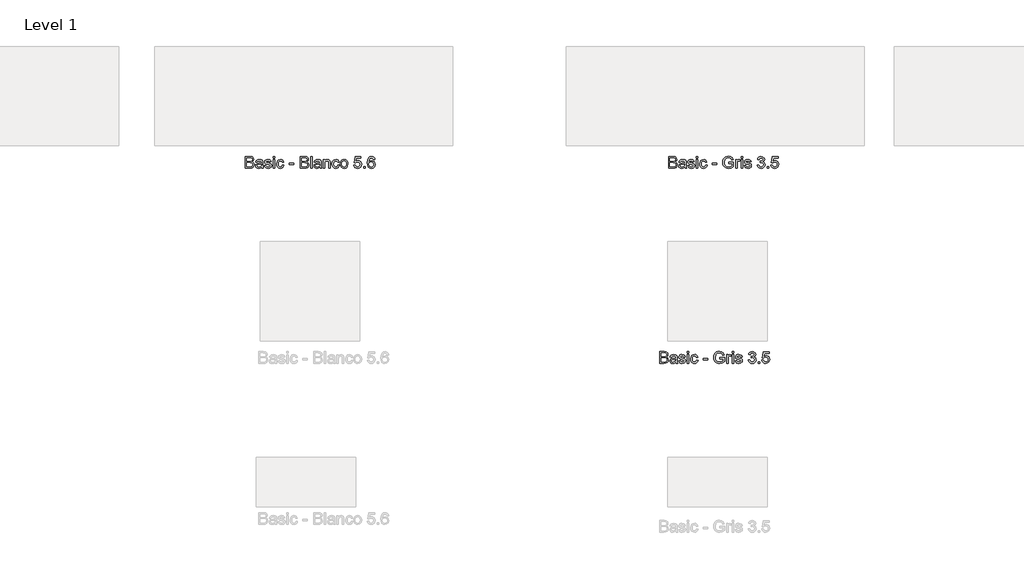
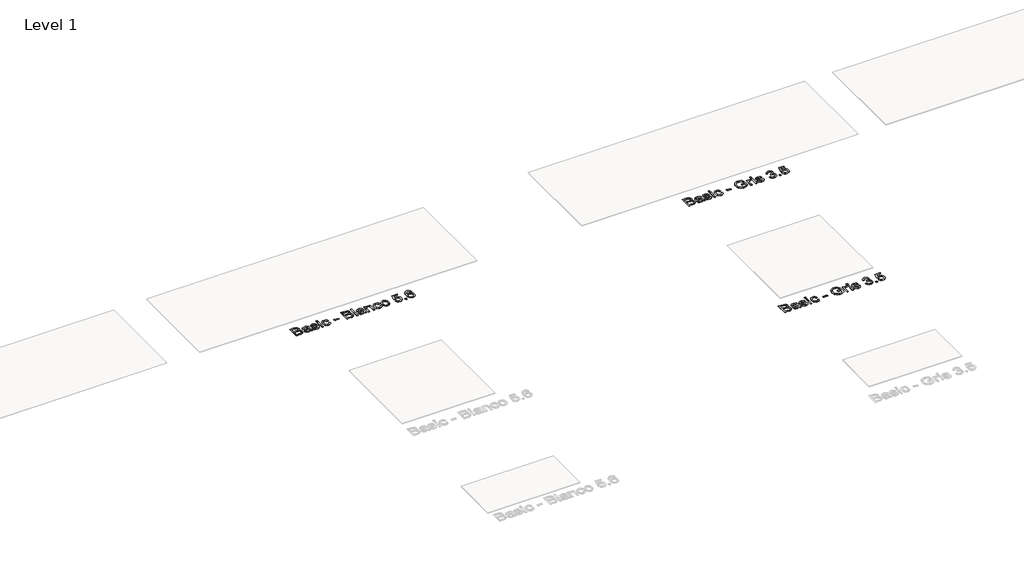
# One storey, part 58 of 80: 3 proxies.
"""IFC4 building model written with IfcOpenShell, lengths in millimetres."""

from ifc_helpers import new_model, si_unit, origin, origin_with_axes, place, context, project, spatial, polyline, outline, extrude, element, save

model = new_model("IFC4")

# Units and contexts
model_context = context("Model", 3, world=origin())
ifc_project = project(units=[si_unit("LENGTHUNIT", "METRE", prefix="MILLI")], contexts=[model_context])

# Site, building, storey
site = spatial("IfcSite", under=ifc_project)
building = spatial("IfcBuilding", under=site)
storey = spatial("IfcBuildingStorey", under=building, Name="Level 1", Elevation=0.0)

# Proxies
placement = place(None, origin())
element("IfcBuildingElementProxy", 1, Name="24\" Arial", ObjectType="24\" Arial", at=placement, inside=storey, context=model_context, shape_type="SweptSolid", body=[
    extrude(outline(polyline([(-23232.3794401, 19224.0250725), (-23232.3794401, 19342.1789187), (-23187.2929016, 19342.1789187), (-23165.2111708, 19338.7029571), (-23152.1727093, 19328.0154571), (-23147.4563631, 19312.9000725), (-23151.4227093, 19299.0971879), (-23163.4082862, 19288.6404571), (-23148.8554016, 19277.6212264), (-23143.7640554, 19259.2462264), (-23147.240017, 19243.3664187), (-23155.8505939, 19232.0587264), (-23168.7015554, 19226.0587264), (-23187.6390554, 19224.0250725), (-23232.3794401, 19224.0250725)]), holes=[polyline([(-23217.6102093, 19238.7943033), (-23187.3217477, 19238.7943033), (-23176.3602093, 19239.3712264), (-23167.0861708, 19242.5875725), (-23160.9419401, 19249.1500725), (-23158.5332862, 19259.1019956), (-23161.3602093, 19270.5827648), (-23170.5188631, 19277.4337264), (-23188.7640554, 19279.4096879), (-23217.6102093, 19279.4096879), (-23217.6102093, 19238.7943033)]), polyline([(-23217.6102093, 19294.1789187), (-23190.6390554, 19294.1789187), (-23174.8890554, 19295.4481494), (-23165.4130939, 19300.9144956), (-23162.2255939, 19310.5346879), (-23165.1967477, 19320.1693033), (-23173.7063631, 19325.8664187), (-23192.6871324, 19327.4096879), (-23217.6102093, 19327.4096879), (-23217.6102093, 19294.1789187)])]), origin_with_axes(), (0.0, 0.0, 1.0), 2.0),
    extrude(outline(polyline([(-23069.9179016, 19235.1019956), (-23084.240017, 19225.0923802), (-23100.0621324, 19222.1789187), (-23112.4046804, 19223.9313225), (-23121.5092477, 19229.188534), (-23127.1234304, 19237.1717071), (-23128.9948247, 19247.1019956), (-23126.1679016, 19258.7846879), (-23118.740017, 19267.2654571), (-23108.3986708, 19272.111611), (-23095.6198247, 19274.3327648), (-23070.0044401, 19279.4096879), (-23069.9179016, 19282.6981494), (-23073.9852093, 19293.6019956), (-23090.3121324, 19297.8712264), (-23105.2544401, 19295.0298802), (-23112.3794401, 19284.9481494), (-23127.1486708, 19286.7943033), (-23120.7592477, 19301.2173802), (-23107.8938631, 19309.6693033), (-23088.4082862, 19312.6404571), (-23070.5092477, 19310.0154571), (-23060.3986708, 19303.424111), (-23055.8698247, 19293.4000725), (-23055.1486708, 19280.4769956), (-23055.1486708, 19262.1019956), (-23054.3986708, 19236.4433417), (-23051.4563631, 19224.0250725), (-23066.2255939, 19224.0250725), (-23069.9179016, 19235.1019956)]), holes=[polyline([(-23069.9179016, 19264.6404571), (-23093.7448247, 19260.111611), (-23106.4515554, 19257.7173802), (-23112.2063631, 19253.8231494), (-23114.2255939, 19248.1404571), (-23109.8265554, 19240.1500725), (-23096.9179016, 19236.9481494), (-23081.9755939, 19240.4818033), (-23072.3409785, 19249.0346879), (-23070.0044401, 19260.4577648), (-23069.9179016, 19264.6404571)])]), origin_with_axes(), (0.0, 0.0, 1.0), 2.0),
    extrude(outline(polyline([(-23040.3794401, 19249.8712264), (-23025.6102093, 19251.7173802), (-23018.7736708, 19240.7558417), (-23003.1102093, 19236.9481494), (-22988.052517, 19240.438534), (-22983.1486708, 19248.6308417), (-22988.0813631, 19255.2654571), (-23003.2832862, 19259.4769956), (-23025.5236708, 19266.7029571), (-23035.2304016, 19275.1404571), (-23038.5332862, 19287.0539187), (-23035.8794401, 19298.0587264), (-23028.6390554, 19306.4673802), (-23019.2496324, 19310.8375725), (-23006.5429016, 19312.6404571), (-22988.5717477, 19309.7414187), (-22977.1486708, 19301.8952648), (-22972.0717477, 19288.6404571), (-22986.8409785, 19286.7943033), (-22992.3938631, 19294.9433417), (-23005.3890554, 19297.8712264), (-23019.5236708, 19295.0731494), (-23023.7640554, 19288.5539187), (-23022.0044401, 19284.2558417), (-23016.4948247, 19280.9962264), (-23003.7736708, 19277.8519956), (-22982.0957862, 19270.9000725), (-22972.0284785, 19263.0250725), (-22968.3794401, 19250.188534), (-22972.6630939, 19236.0539187), (-22985.0236708, 19225.799111), (-23003.3121324, 19222.1789187), (-23018.2039593, 19223.924111), (-23029.0717477, 19229.1596879), (-23036.3265554, 19237.8279571), (-23040.3794401, 19249.8712264)])), origin_with_axes(), (0.0, 0.0, 1.0), 2.0),
    extrude(outline(polyline([(-22951.7640554, 19224.0250725), (-22951.7640554, 19310.7943033), (-22936.9948247, 19310.7943033), (-22936.9948247, 19224.0250725), (-22951.7640554, 19224.0250725)])), origin_with_axes(), (0.0, 0.0, 1.0), 2.0),
    extrude(outline(polyline([(-22951.7640554, 19327.4096879), (-22951.7640554, 19342.1789187), (-22936.9948247, 19342.1789187), (-22936.9948247, 19327.4096879), (-22951.7640554, 19327.4096879)])), origin_with_axes(), (0.0, 0.0, 1.0), 2.0),
    extrude(outline(polyline([(-22859.4563631, 19255.4096879), (-22844.6871324, 19253.563534), (-22848.8049208, 19240.4277167), (-22856.5429016, 19230.501034), (-22867.1727093, 19224.2594475), (-22879.9659785, 19222.1789187), (-22895.6763151, 19225.0815629), (-22907.9611708, 19233.7894956), (-22915.8902574, 19247.9205052), (-22918.5332862, 19267.0923802), (-22914.0188631, 19291.626034), (-22908.3217477, 19300.8243514), (-22900.2592477, 19307.3904571), (-22880.1679016, 19312.6404571), (-22867.6883343, 19310.8375725), (-22857.7111708, 19305.4289187), (-22850.5537189, 19296.7029571), (-22846.5332862, 19284.9481494), (-22861.302517, 19283.1019956), (-22868.1534785, 19294.1644956), (-22880.052517, 19297.8712264), (-22889.5969881, 19296.0467071), (-22897.1727093, 19290.5731494), (-22902.1162189, 19281.1548802), (-22903.7640554, 19267.4962264), (-22902.1522766, 19253.6536783), (-22897.3169401, 19244.2029571), (-22889.8782381, 19238.7618514), (-22880.4563631, 19236.9481494), (-22866.5380939, 19241.4769956), (-22859.4563631, 19255.4096879)])), origin_with_axes(), (0.0, 0.0, 1.0), 2.0),
    extrude(outline(polyline([(-22792.9948247, 19259.1019956), (-22792.9948247, 19273.8712264), (-22746.8409785, 19273.8712264), (-22746.8409785, 19259.1019956), (-22792.9948247, 19259.1019956)])), origin_with_axes(), (0.0, 0.0, 1.0), 2.0),
    extrude(outline(polyline([(-22682.2255939, 19224.0250725), (-22682.2255939, 19342.1789187), (-22637.1390554, 19342.1789187), (-22615.0573247, 19338.7029571), (-22602.0188631, 19328.0154571), (-22597.302517, 19312.9000725), (-22601.2688631, 19299.0971879), (-22613.2544401, 19288.6404571), (-22598.7015554, 19277.6212264), (-22593.6102093, 19259.2462264), (-22597.0861708, 19243.3664187), (-22605.6967477, 19232.0587264), (-22618.5477093, 19226.0587264), (-22637.4852093, 19224.0250725), (-22682.2255939, 19224.0250725)]), holes=[polyline([(-22667.4563631, 19294.1789187), (-22640.4852093, 19294.1789187), (-22624.7352093, 19295.4481494), (-22615.2592477, 19300.9144956), (-22612.0717477, 19310.5346879), (-22615.0429016, 19320.1693033), (-22623.552517, 19325.8664187), (-22642.5332862, 19327.4096879), (-22667.4563631, 19327.4096879), (-22667.4563631, 19294.1789187)]), polyline([(-22667.4563631, 19238.7943033), (-22637.1679016, 19238.7943033), (-22626.2063631, 19239.3712264), (-22616.9323247, 19242.5875725), (-22610.7880939, 19249.1500725), (-22608.3794401, 19259.1019956), (-22611.2063631, 19270.5827648), (-22620.365017, 19277.4337264), (-22638.6102093, 19279.4096879), (-22667.4563631, 19279.4096879), (-22667.4563631, 19238.7943033)])]), origin_with_axes(), (0.0, 0.0, 1.0), 2.0),
    extrude(outline(polyline([(-22575.1486708, 19224.0250725), (-22575.1486708, 19342.1789187), (-22560.3794401, 19342.1789187), (-22560.3794401, 19224.0250725), (-22575.1486708, 19224.0250725)])), origin_with_axes(), (0.0, 0.0, 1.0), 2.0),
    extrude(outline(polyline([(-22482.8409785, 19235.1019956), (-22497.1630939, 19225.0923802), (-22512.9852093, 19222.1789187), (-22525.3277574, 19223.9313225), (-22534.4323247, 19229.188534), (-22540.0465074, 19237.1717071), (-22541.9179016, 19247.1019956), (-22539.0909785, 19258.7846879), (-22531.6630939, 19267.2654571), (-22521.3217477, 19272.111611), (-22508.5429016, 19274.3327648), (-22482.927517, 19279.4096879), (-22482.8409785, 19282.6981494), (-22486.9082862, 19293.6019956), (-22503.2352093, 19297.8712264), (-22518.177517, 19295.0298802), (-22525.302517, 19284.9481494), (-22540.0717477, 19286.7943033), (-22533.6823247, 19301.2173802), (-22520.8169401, 19309.6693033), (-22501.3313631, 19312.6404571), (-22483.4323247, 19310.0154571), (-22473.3217477, 19303.424111), (-22468.7929016, 19293.4000725), (-22468.0717477, 19280.4769956), (-22468.0717477, 19262.1019956), (-22467.3217477, 19236.4433417), (-22464.3794401, 19224.0250725), (-22479.1486708, 19224.0250725), (-22482.8409785, 19235.1019956)]), holes=[polyline([(-22482.8409785, 19264.6404571), (-22506.6679016, 19260.111611), (-22519.3746324, 19257.7173802), (-22525.1294401, 19253.8231494), (-22527.1486708, 19248.1404571), (-22522.7496324, 19240.1500725), (-22509.8409785, 19236.9481494), (-22494.8986708, 19240.4818033), (-22485.2640554, 19249.0346879), (-22482.927517, 19260.4577648), (-22482.8409785, 19264.6404571)])]), origin_with_axes(), (0.0, 0.0, 1.0), 2.0),
    extrude(outline(polyline([(-22447.7640554, 19224.0250725), (-22447.7640554, 19310.7943033), (-22432.9948247, 19310.7943033), (-22432.9948247, 19298.6789187), (-22421.7015554, 19309.1500725), (-22406.2832862, 19312.6404571), (-22392.3361708, 19309.8279571), (-22382.8169401, 19302.4433417), (-22378.3890554, 19291.5827648), (-22377.6102093, 19277.3039187), (-22377.6102093, 19224.0250725), (-22392.3794401, 19224.0250725), (-22392.3794401, 19275.313534), (-22394.0813631, 19288.3808417), (-22400.0957862, 19295.2894956), (-22410.2352093, 19297.8712264), (-22426.2592477, 19292.0731494), (-22431.3109304, 19283.6717071), (-22432.9948247, 19270.063534), (-22432.9948247, 19224.0250725), (-22447.7640554, 19224.0250725)])), origin_with_axes(), (0.0, 0.0, 1.0), 2.0),
    extrude(outline(polyline([(-22301.9179016, 19255.4096879), (-22287.1486708, 19253.563534), (-22291.2664593, 19240.4277167), (-22299.0044401, 19230.501034), (-22309.6342477, 19224.2594475), (-22322.427517, 19222.1789187), (-22338.1378535, 19225.0815629), (-22350.4227093, 19233.7894956), (-22358.3517958, 19247.9205052), (-22360.9948247, 19267.0923802), (-22356.4804016, 19291.626034), (-22350.7832862, 19300.8243514), (-22342.7207862, 19307.3904571), (-22322.6294401, 19312.6404571), (-22310.1498727, 19310.8375725), (-22300.1727093, 19305.4289187), (-22293.0152574, 19296.7029571), (-22288.9948247, 19284.9481494), (-22303.7640554, 19283.1019956), (-22310.615017, 19294.1644956), (-22322.5140554, 19297.8712264), (-22332.0585266, 19296.0467071), (-22339.6342477, 19290.5731494), (-22344.5777574, 19281.1548802), (-22346.2255939, 19267.4962264), (-22344.6138151, 19253.6536783), (-22339.7784785, 19244.2029571), (-22332.3397766, 19238.7618514), (-22322.9179016, 19236.9481494), (-22308.9996324, 19241.4769956), (-22301.9179016, 19255.4096879)])), origin_with_axes(), (0.0, 0.0, 1.0), 2.0),
    extrude(outline(polyline([(-22277.9179016, 19267.4096879), (-22274.7231901, 19288.330361), (-22265.1390554, 19303.0346879), (-22253.2977093, 19310.2390148), (-22239.1198247, 19312.6404571), (-22223.6041997, 19309.7161783), (-22211.2111708, 19300.9433417), (-22203.0873727, 19287.0142552), (-22200.3794401, 19268.6212264), (-22205.1679016, 19242.3423802), (-22219.115017, 19227.4721879), (-22239.1198247, 19222.1789187), (-22254.8229497, 19225.0923802), (-22267.2015554, 19233.8327648), (-22275.2388151, 19248.0539187), (-22277.9179016, 19267.4096879)]), holes=[polyline([(-22263.1486708, 19267.438534), (-22261.4395362, 19254.0719475), (-22256.3121324, 19244.549111), (-22248.5957862, 19238.8483898), (-22239.1198247, 19236.9481494), (-22229.6871324, 19238.8592071), (-22221.9852093, 19244.5923802), (-22216.8578054, 19254.2414187), (-22215.1486708, 19267.9000725), (-22216.8686227, 19280.877236), (-22222.0284785, 19290.2702648), (-22229.7412189, 19295.970986), (-22239.1198247, 19297.8712264), (-22248.5957862, 19295.9781975), (-22256.3121324, 19290.299111), (-22261.4395362, 19280.797909), (-22263.1486708, 19267.438534)])]), origin_with_axes(), (0.0, 0.0, 1.0), 2.0),
    extrude(outline(polyline([(-22141.302517, 19255.4096879), (-22126.5332862, 19257.2558417), (-22119.0909785, 19242.0394956), (-22103.6582862, 19236.9481494), (-22093.0717477, 19238.7185821), (-22085.1390554, 19244.0298802), (-22080.1847285, 19252.2690629), (-22078.5332862, 19262.8231494), (-22080.0801612, 19272.7606494), (-22084.7207862, 19280.361611), (-22092.4912189, 19285.1861302), (-22103.427517, 19286.7943033), (-22116.3938631, 19284.2269956), (-22124.6871324, 19277.563534), (-22139.4563631, 19279.4096879), (-22126.5332862, 19340.3327648), (-22069.302517, 19340.3327648), (-22069.302517, 19325.563534), (-22114.5909785, 19325.563534), (-22120.9082862, 19293.0250725), (-22110.3578054, 19299.4289187), (-22099.302517, 19301.563534), (-22085.5032381, 19298.9168994), (-22074.0477093, 19290.9769956), (-22066.3349689, 19278.876034), (-22063.7640554, 19263.7462264), (-22066.0789593, 19248.9769956), (-22073.0236708, 19236.3423802), (-22086.3217477, 19225.719784), (-22103.7159785, 19222.1789187), (-22118.2219881, 19224.454159), (-22129.7784785, 19231.2798802), (-22137.7003535, 19241.8628129), (-22141.302517, 19255.4096879)])), origin_with_axes(), (0.0, 0.0, 1.0), 2.0),
    extrude(outline(polyline([(-22043.4563631, 19224.0250725), (-22043.4563631, 19238.7943033), (-22028.6871324, 19238.7943033), (-22028.6871324, 19224.0250725), (-22043.4563631, 19224.0250725)])), origin_with_axes(), (0.0, 0.0, 1.0), 2.0),
    extrude(outline(polyline([(-21928.9948247, 19310.7943033), (-21943.7640554, 19308.9481494), (-21949.3602093, 19321.2654571), (-21956.0597285, 19325.8736302), (-21964.1582862, 19327.4096879), (-21977.4852093, 19323.8327648), (-21987.5669401, 19310.4048802), (-21991.7640554, 19284.0827648), (-21978.740017, 19295.8664187), (-21962.6005939, 19299.7173802), (-21948.9563631, 19297.0851687), (-21937.5044401, 19289.188534), (-21929.7376131, 19277.1236302), (-21927.1486708, 19261.986611), (-21932.0236708, 19241.6068033), (-21945.4371324, 19227.1837264), (-21964.7929016, 19222.1789187), (-21981.5489112, 19225.4962264), (-21994.8938631, 19235.4481494), (-22003.6234304, 19253.0154571), (-22006.5332862, 19279.1789187), (-22003.302517, 19308.594784), (-21993.6102093, 19328.7077648), (-21980.3770362, 19338.8111302), (-21963.2352093, 19342.1789187), (-21950.2760747, 19340.094784), (-21939.8986708, 19333.8423802), (-21932.6294401, 19323.9120917), (-21928.9948247, 19310.7943033)]), holes=[polyline([(-21991.7640554, 19262.2173802), (-21988.3457862, 19249.424111), (-21979.2592477, 19240.1356494), (-21965.9467477, 19236.9481494), (-21956.2003535, 19238.5995917), (-21948.5380939, 19243.5539187), (-21943.5729497, 19251.3423802), (-21941.9179016, 19261.4962264), (-21943.5513151, 19271.2426206), (-21948.4515554, 19278.674111), (-21956.2436227, 19283.3796398), (-21966.552517, 19284.9481494), (-21976.2844881, 19283.3796398), (-21984.4227093, 19278.674111), (-21989.9287189, 19271.422909), (-21991.7640554, 19262.2173802)])]), origin_with_axes(), (0.0, 0.0, 1.0), 2.0),
])
element("IfcBuildingElementProxy", 2, Name="24\" Arial", ObjectType="24\" Arial", at=placement, inside=storey, context=model_context, shape_type="SweptSolid", body=[
    extrude(outline(polyline([(-18975.5848523, 19224.0250725), (-18975.5848523, 19342.1789187), (-18930.4983138, 19342.1789187), (-18908.416583, 19338.7029571), (-18895.3781215, 19328.0154571), (-18890.6617753, 19312.9000725), (-18894.6281215, 19299.0971879), (-18906.6136984, 19288.6404571), (-18892.0608138, 19277.6212264), (-18886.9694676, 19259.2462264), (-18890.4454292, 19243.3664187), (-18899.0560061, 19232.0587264), (-18911.9069676, 19226.0587264), (-18930.8444676, 19224.0250725), (-18975.5848523, 19224.0250725)]), holes=[polyline([(-18960.8156215, 19238.7943033), (-18930.52716, 19238.7943033), (-18919.5656215, 19239.3712264), (-18910.291583, 19242.5875725), (-18904.1473523, 19249.1500725), (-18901.7386984, 19259.1019956), (-18904.5656215, 19270.5827648), (-18913.7242753, 19277.4337264), (-18931.9694676, 19279.4096879), (-18960.8156215, 19279.4096879), (-18960.8156215, 19238.7943033)]), polyline([(-18960.8156215, 19294.1789187), (-18933.8444676, 19294.1789187), (-18918.0944676, 19295.4481494), (-18908.6185061, 19300.9144956), (-18905.4310061, 19310.5346879), (-18908.40216, 19320.1693033), (-18916.9117753, 19325.8664187), (-18935.8925446, 19327.4096879), (-18960.8156215, 19327.4096879), (-18960.8156215, 19294.1789187)])]), origin_with_axes(), (0.0, 0.0, 1.0), 2.0),
    extrude(outline(polyline([(-18813.1233138, 19235.1019956), (-18827.4454292, 19225.0923802), (-18843.2675446, 19222.1789187), (-18855.6100926, 19223.9313225), (-18864.71466, 19229.188534), (-18870.3288426, 19237.1717071), (-18872.2002369, 19247.1019956), (-18869.3733138, 19258.7846879), (-18861.9454292, 19267.2654571), (-18851.604083, 19272.111611), (-18838.8252369, 19274.3327648), (-18813.2098523, 19279.4096879), (-18813.1233138, 19282.6981494), (-18817.1906215, 19293.6019956), (-18833.5175446, 19297.8712264), (-18848.4598523, 19295.0298802), (-18855.5848523, 19284.9481494), (-18870.354083, 19286.7943033), (-18863.96466, 19301.2173802), (-18851.0992753, 19309.6693033), (-18831.6136984, 19312.6404571), (-18813.71466, 19310.0154571), (-18803.604083, 19303.424111), (-18799.0752369, 19293.4000725), (-18798.354083, 19280.4769956), (-18798.354083, 19262.1019956), (-18797.604083, 19236.4433417), (-18794.6617753, 19224.0250725), (-18809.4310061, 19224.0250725), (-18813.1233138, 19235.1019956)]), holes=[polyline([(-18813.1233138, 19264.6404571), (-18836.9502369, 19260.111611), (-18849.6569676, 19257.7173802), (-18855.4117753, 19253.8231494), (-18857.4310061, 19248.1404571), (-18853.0319676, 19240.1500725), (-18840.1233138, 19236.9481494), (-18825.1810061, 19240.4818033), (-18815.5463907, 19249.0346879), (-18813.2098523, 19260.4577648), (-18813.1233138, 19264.6404571)])]), origin_with_axes(), (0.0, 0.0, 1.0), 2.0),
    extrude(outline(polyline([(-18783.5848523, 19249.8712264), (-18768.8156215, 19251.7173802), (-18761.979083, 19240.7558417), (-18746.3156215, 19236.9481494), (-18731.2579292, 19240.438534), (-18726.354083, 19248.6308417), (-18731.2867753, 19255.2654571), (-18746.4886984, 19259.4769956), (-18768.729083, 19266.7029571), (-18778.4358138, 19275.1404571), (-18781.7386984, 19287.0539187), (-18779.0848523, 19298.0587264), (-18771.8444676, 19306.4673802), (-18762.4550446, 19310.8375725), (-18749.7483138, 19312.6404571), (-18731.77716, 19309.7414187), (-18720.354083, 19301.8952648), (-18715.27716, 19288.6404571), (-18730.0463907, 19286.7943033), (-18735.5992753, 19294.9433417), (-18748.5944676, 19297.8712264), (-18762.729083, 19295.0731494), (-18766.9694676, 19288.5539187), (-18765.2098523, 19284.2558417), (-18759.7002369, 19280.9962264), (-18746.979083, 19277.8519956), (-18725.3011984, 19270.9000725), (-18715.2338907, 19263.0250725), (-18711.5848523, 19250.188534), (-18715.8685061, 19236.0539187), (-18728.229083, 19225.799111), (-18746.5175446, 19222.1789187), (-18761.4093715, 19223.924111), (-18772.27716, 19229.1596879), (-18779.5319676, 19237.8279571), (-18783.5848523, 19249.8712264)])), origin_with_axes(), (0.0, 0.0, 1.0), 2.0),
    extrude(outline(polyline([(-18694.9694676, 19224.0250725), (-18694.9694676, 19310.7943033), (-18680.2002369, 19310.7943033), (-18680.2002369, 19224.0250725), (-18694.9694676, 19224.0250725)])), origin_with_axes(), (0.0, 0.0, 1.0), 2.0),
    extrude(outline(polyline([(-18694.9694676, 19327.4096879), (-18694.9694676, 19342.1789187), (-18680.2002369, 19342.1789187), (-18680.2002369, 19327.4096879), (-18694.9694676, 19327.4096879)])), origin_with_axes(), (0.0, 0.0, 1.0), 2.0),
    extrude(outline(polyline([(-18602.6617753, 19255.4096879), (-18587.8925446, 19253.563534), (-18592.010333, 19240.4277167), (-18599.7483138, 19230.501034), (-18610.3781215, 19224.2594475), (-18623.1713907, 19222.1789187), (-18638.8817273, 19225.0815629), (-18651.166583, 19233.7894956), (-18659.0956696, 19247.9205052), (-18661.7386984, 19267.0923802), (-18657.2242753, 19291.626034), (-18651.52716, 19300.8243514), (-18643.46466, 19307.3904571), (-18623.3733138, 19312.6404571), (-18610.8937465, 19310.8375725), (-18600.916583, 19305.4289187), (-18593.7591311, 19296.7029571), (-18589.7386984, 19284.9481494), (-18604.5079292, 19283.1019956), (-18611.3588907, 19294.1644956), (-18623.2579292, 19297.8712264), (-18632.8024003, 19296.0467071), (-18640.3781215, 19290.5731494), (-18645.3216311, 19281.1548802), (-18646.9694676, 19267.4962264), (-18645.3576888, 19253.6536783), (-18640.5223523, 19244.2029571), (-18633.0836503, 19238.7618514), (-18623.6617753, 19236.9481494), (-18609.7435061, 19241.4769956), (-18602.6617753, 19255.4096879)])), origin_with_axes(), (0.0, 0.0, 1.0), 2.0),
    extrude(outline(polyline([(-18536.2002369, 19259.1019956), (-18536.2002369, 19273.8712264), (-18490.0463907, 19273.8712264), (-18490.0463907, 19259.1019956), (-18536.2002369, 19259.1019956)])), origin_with_axes(), (0.0, 0.0, 1.0), 2.0),
    extrude(outline(polyline([(-18370.0463907, 19270.1789187), (-18370.0463907, 19284.9481494), (-18322.0463907, 19284.9481494), (-18322.0463907, 19240.7846879), (-18345.7435061, 19226.8519956), (-18370.7963907, 19222.1789187), (-18387.3649003, 19224.0358898), (-18402.33966, 19229.6068033), (-18414.7795638, 19238.6969475), (-18423.7435061, 19251.111611), (-18429.1629773, 19266.0034379), (-18430.9694676, 19282.5250725), (-18429.1701888, 19299.1656975), (-18423.7723523, 19314.6452648), (-18414.9995157, 19327.6296398), (-18403.0752369, 19336.7846879), (-18388.5511984, 19342.2149764), (-18371.979083, 19344.0250725), (-18348.8733138, 19339.8279571), (-18332.6761984, 19328.1452648), (-18323.7483138, 19308.6019956), (-18337.3636984, 19304.7654571), (-18344.0992753, 19318.424111), (-18355.6088907, 19326.299111), (-18372.2098523, 19329.2558417), (-18391.1185061, 19326.0683417), (-18403.9838907, 19317.7029571), (-18411.5848523, 19306.3231494), (-18416.2002369, 19283.1308417), (-18414.8120157, 19269.0070437), (-18410.6473523, 19257.3856494), (-18403.8324484, 19248.3495917), (-18394.4935061, 19241.9818033), (-18371.979083, 19236.9481494), (-18351.7723523, 19240.7414187), (-18336.8156215, 19248.8327648), (-18336.8156215, 19270.1789187), (-18370.0463907, 19270.1789187)])), origin_with_axes(), (0.0, 0.0, 1.0), 2.0),
    extrude(outline(polyline([(-18299.8925446, 19224.0250725), (-18299.8925446, 19310.7943033), (-18286.9694676, 19310.7943033), (-18286.9694676, 19297.9577648), (-18277.7963907, 19309.7846879), (-18268.5656215, 19312.6404571), (-18253.7386984, 19308.0827648), (-18258.6713907, 19294.8423802), (-18269.0560061, 19297.8712264), (-18277.4069676, 19294.9577648), (-18282.729083, 19286.8808417), (-18285.1233138, 19269.6308417), (-18285.1233138, 19224.0250725), (-18299.8925446, 19224.0250725)])), origin_with_axes(), (0.0, 0.0, 1.0), 2.0),
    extrude(outline(polyline([(-18244.5079292, 19327.4096879), (-18244.5079292, 19342.1789187), (-18229.7386984, 19342.1789187), (-18229.7386984, 19327.4096879), (-18244.5079292, 19327.4096879)])), origin_with_axes(), (0.0, 0.0, 1.0), 2.0),
    extrude(outline(polyline([(-18244.5079292, 19224.0250725), (-18244.5079292, 19310.7943033), (-18229.7386984, 19310.7943033), (-18229.7386984, 19224.0250725), (-18244.5079292, 19224.0250725)])), origin_with_axes(), (0.0, 0.0, 1.0), 2.0),
    extrude(outline(polyline([(-18213.1233138, 19249.8712264), (-18198.354083, 19251.7173802), (-18191.5175446, 19240.7558417), (-18175.854083, 19236.9481494), (-18160.7963907, 19240.438534), (-18155.8925446, 19248.6308417), (-18160.8252369, 19255.2654571), (-18176.02716, 19259.4769956), (-18198.2675446, 19266.7029571), (-18207.9742753, 19275.1404571), (-18211.27716, 19287.0539187), (-18208.6233138, 19298.0587264), (-18201.3829292, 19306.4673802), (-18191.9935061, 19310.8375725), (-18179.2867753, 19312.6404571), (-18161.3156215, 19309.7414187), (-18149.8925446, 19301.8952648), (-18144.8156215, 19288.6404571), (-18159.5848523, 19286.7943033), (-18165.1377369, 19294.9433417), (-18178.1329292, 19297.8712264), (-18192.2675446, 19295.0731494), (-18196.5079292, 19288.5539187), (-18194.7483138, 19284.2558417), (-18189.2386984, 19280.9962264), (-18176.5175446, 19277.8519956), (-18154.83966, 19270.9000725), (-18144.7723523, 19263.0250725), (-18141.1233138, 19250.188534), (-18145.4069676, 19236.0539187), (-18157.7675446, 19225.799111), (-18176.0560061, 19222.1789187), (-18190.947833, 19223.924111), (-18201.8156215, 19229.1596879), (-18209.0704292, 19237.8279571), (-18213.1233138, 19249.8712264)])), origin_with_axes(), (0.0, 0.0, 1.0), 2.0),
    extrude(outline(polyline([(-18082.0463907, 19255.4096879), (-18067.27716, 19257.2558417), (-18059.1281215, 19241.7077648), (-18043.8829292, 19236.9481494), (-18033.7579292, 19238.5851687), (-18025.9406215, 19243.4962264), (-18020.9430253, 19250.8231494), (-18019.27716, 19259.7077648), (-18020.9286023, 19268.141659), (-18025.8829292, 19274.9818033), (-18033.3829292, 19279.5142552), (-18042.6713907, 19281.0250725), (-18053.02716, 19279.4096879), (-18051.3829292, 19294.1789187), (-18049.0175446, 19294.0058417), (-18032.2579292, 19298.2462264), (-18026.6761984, 19303.626034), (-18024.8156215, 19311.2846879), (-18030.2098523, 19322.8375725), (-18044.1136984, 19327.4096879), (-18058.1906215, 19322.7943033), (-18065.4310061, 19308.9481494), (-18080.2002369, 19310.7943033), (-18075.8516792, 19324.0563225), (-18068.1136984, 19333.9577648), (-18057.52716, 19340.1236302), (-18044.6329292, 19342.1789187), (-18026.8204292, 19338.126034), (-18014.3588907, 19327.049111), (-18010.0463907, 19312.1500725), (-18014.1425446, 19298.5346879), (-18026.2579292, 19288.7558417), (-18017.0127369, 19285.0202648), (-18010.1617753, 19278.6596879), (-18005.9213907, 19270.0202648), (-18004.5079292, 19259.4481494), (-18007.3348523, 19245.0539187), (-18015.8156215, 19233.0250725), (-18028.6161023, 19224.8904571), (-18044.40216, 19222.1789187), (-18058.6810061, 19224.4938225), (-18070.3060061, 19231.438534), (-18078.3901407, 19242.0611302), (-18082.0463907, 19255.4096879)])), origin_with_axes(), (0.0, 0.0, 1.0), 2.0),
    extrude(outline(polyline([(-17984.2002369, 19224.0250725), (-17984.2002369, 19238.7943033), (-17969.4310061, 19238.7943033), (-17969.4310061, 19224.0250725), (-17984.2002369, 19224.0250725)])), origin_with_axes(), (0.0, 0.0, 1.0), 2.0),
    extrude(outline(polyline([(-17945.4310061, 19255.4096879), (-17930.6617753, 19257.2558417), (-17923.2194676, 19242.0394956), (-17907.7867753, 19236.9481494), (-17897.2002369, 19238.7185821), (-17889.2675446, 19244.0298802), (-17884.3132176, 19252.2690629), (-17882.6617753, 19262.8231494), (-17884.2086503, 19272.7606494), (-17888.8492753, 19280.361611), (-17896.619708, 19285.1861302), (-17907.5560061, 19286.7943033), (-17920.5223523, 19284.2269956), (-17928.8156215, 19277.563534), (-17943.5848523, 19279.4096879), (-17930.6617753, 19340.3327648), (-17873.4310061, 19340.3327648), (-17873.4310061, 19325.563534), (-17918.7194676, 19325.563534), (-17925.0367753, 19293.0250725), (-17914.4862946, 19299.4289187), (-17903.4310061, 19301.563534), (-17889.6317273, 19298.9168994), (-17878.1761984, 19290.9769956), (-17870.463458, 19278.876034), (-17867.8925446, 19263.7462264), (-17870.2074484, 19248.9769956), (-17877.15216, 19236.3423802), (-17890.4502369, 19225.719784), (-17907.8444676, 19222.1789187), (-17922.3504773, 19224.454159), (-17933.9069676, 19231.2798802), (-17941.8288426, 19241.8628129), (-17945.4310061, 19255.4096879)])), origin_with_axes(), (0.0, 0.0, 1.0), 2.0),
])
element("IfcBuildingElementProxy", 3, Name="24\" Arial", ObjectType="24\" Arial", at=placement, inside=storey, context=model_context, shape_type="SweptSolid", body=[
    extrude(outline(polyline([(-19065.9799633, 17259.8026123), (-19065.9799633, 17377.9564584), (-19020.8934248, 17377.9564584), (-18998.811694, 17374.4804969), (-18985.7732325, 17363.7929969), (-18981.0568864, 17348.6776123), (-18985.0232325, 17334.8747276), (-18997.0088094, 17324.4179969), (-18982.4559248, 17313.3987661), (-18977.3645787, 17295.0237661), (-18980.8405402, 17279.1439584), (-18989.4511171, 17267.8362661), (-19002.3020787, 17261.8362661), (-19021.2395787, 17259.8026123), (-19065.9799633, 17259.8026123)]), holes=[polyline([(-19051.2107325, 17274.571843), (-19020.922271, 17274.571843), (-19009.9607325, 17275.1487661), (-19000.686694, 17278.3651123), (-18994.5424633, 17284.9276123), (-18992.1338094, 17294.8795353), (-18994.9607325, 17306.3603046), (-19004.1193864, 17313.2112661), (-19022.3645787, 17315.1872276), (-19051.2107325, 17315.1872276), (-19051.2107325, 17274.571843)]), polyline([(-19051.2107325, 17329.9564584), (-19024.2395787, 17329.9564584), (-19008.4895787, 17331.2256892), (-18999.0136171, 17336.6920353), (-18995.8261171, 17346.3122276), (-18998.797271, 17355.946843), (-19007.3068864, 17361.6439584), (-19026.2876556, 17363.1872276), (-19051.2107325, 17363.1872276), (-19051.2107325, 17329.9564584)])]), origin_with_axes(), (0.0, 0.0, 1.0), 2.0),
    extrude(outline(polyline([(-18903.5184248, 17270.8795353), (-18917.8405402, 17260.8699199), (-18933.6626556, 17257.9564584), (-18946.0052037, 17259.7088623), (-18955.109771, 17264.9660738), (-18960.7239537, 17272.9492469), (-18962.5953479, 17282.8795353), (-18959.7684248, 17294.5622276), (-18952.3405402, 17303.0429969), (-18941.999194, 17307.8891507), (-18929.2203479, 17310.1103046), (-18903.6049633, 17315.1872276), (-18903.5184248, 17318.4756892), (-18907.5857325, 17329.3795353), (-18923.9126556, 17333.6487661), (-18938.8549633, 17330.8074199), (-18945.9799633, 17320.7256892), (-18960.749194, 17322.571843), (-18954.359771, 17336.9949199), (-18941.4943864, 17345.446843), (-18922.0088094, 17348.4179969), (-18904.109771, 17345.7929969), (-18893.999194, 17339.2016507), (-18889.4703479, 17329.1776123), (-18888.749194, 17316.2545353), (-18888.749194, 17297.8795353), (-18887.999194, 17272.2208815), (-18885.0568864, 17259.8026123), (-18899.8261171, 17259.8026123), (-18903.5184248, 17270.8795353)]), holes=[polyline([(-18903.5184248, 17300.4179969), (-18927.3453479, 17295.8891507), (-18940.0520787, 17293.4949199), (-18945.8068864, 17289.6006892), (-18947.8261171, 17283.9179969), (-18943.4270787, 17275.9276123), (-18930.5184248, 17272.7256892), (-18915.5761171, 17276.259343), (-18905.9415017, 17284.8122276), (-18903.6049633, 17296.2353046), (-18903.5184248, 17300.4179969)])]), origin_with_axes(), (0.0, 0.0, 1.0), 2.0),
    extrude(outline(polyline([(-18873.9799633, 17285.6487661), (-18859.2107325, 17287.4949199), (-18852.374194, 17276.5333815), (-18836.7107325, 17272.7256892), (-18821.6530402, 17276.2160738), (-18816.749194, 17284.4083815), (-18821.6818864, 17291.0429969), (-18836.8838094, 17295.2545353), (-18859.124194, 17302.4804969), (-18868.8309248, 17310.9179969), (-18872.1338094, 17322.8314584), (-18869.4799633, 17333.8362661), (-18862.2395787, 17342.2449199), (-18852.8501556, 17346.6151123), (-18840.1434248, 17348.4179969), (-18822.172271, 17345.5189584), (-18810.749194, 17337.6728046), (-18805.672271, 17324.4179969), (-18820.4415017, 17322.571843), (-18825.9943864, 17330.7208815), (-18838.9895787, 17333.6487661), (-18853.124194, 17330.8506892), (-18857.3645787, 17324.3314584), (-18855.6049633, 17320.0333815), (-18850.0953479, 17316.7737661), (-18837.374194, 17313.6295353), (-18815.6963094, 17306.6776123), (-18805.6290017, 17298.8026123), (-18801.9799633, 17285.9660738), (-18806.2636171, 17271.8314584), (-18818.624194, 17261.5766507), (-18836.9126556, 17257.9564584), (-18851.8044825, 17259.7016507), (-18862.672271, 17264.9372276), (-18869.9270787, 17273.6054969), (-18873.9799633, 17285.6487661)])), origin_with_axes(), (0.0, 0.0, 1.0), 2.0),
    extrude(outline(polyline([(-18785.3645787, 17259.8026123), (-18785.3645787, 17346.571843), (-18770.5953479, 17346.571843), (-18770.5953479, 17259.8026123), (-18785.3645787, 17259.8026123)])), origin_with_axes(), (0.0, 0.0, 1.0), 2.0),
    extrude(outline(polyline([(-18785.3645787, 17363.1872276), (-18785.3645787, 17377.9564584), (-18770.5953479, 17377.9564584), (-18770.5953479, 17363.1872276), (-18785.3645787, 17363.1872276)])), origin_with_axes(), (0.0, 0.0, 1.0), 2.0),
    extrude(outline(polyline([(-18693.0568864, 17291.1872276), (-18678.2876556, 17289.3410738), (-18682.405444, 17276.2052565), (-18690.1434248, 17266.2785738), (-18700.7732325, 17260.0369873), (-18713.5665017, 17257.9564584), (-18729.2768383, 17260.8591026), (-18741.561694, 17269.5670353), (-18749.4907806, 17283.6980449), (-18752.1338094, 17302.8699199), (-18747.6193864, 17327.4035738), (-18741.922271, 17336.6018911), (-18733.859771, 17343.1679969), (-18713.7684248, 17348.4179969), (-18701.2888575, 17346.6151123), (-18691.311694, 17341.2064584), (-18684.1542421, 17332.4804969), (-18680.1338094, 17320.7256892), (-18694.9030402, 17318.8795353), (-18701.7540017, 17329.9420353), (-18713.6530402, 17333.6487661), (-18723.1975114, 17331.8242469), (-18730.7732325, 17326.3506892), (-18735.7167421, 17316.9324199), (-18737.3645787, 17303.2737661), (-18735.7527998, 17289.431218), (-18730.9174633, 17279.9804969), (-18723.4787614, 17274.5393911), (-18714.0568864, 17272.7256892), (-18700.1386171, 17277.2545353), (-18693.0568864, 17291.1872276)])), origin_with_axes(), (0.0, 0.0, 1.0), 2.0),
    extrude(outline(polyline([(-18626.5953479, 17294.8795353), (-18626.5953479, 17309.6487661), (-18580.4415017, 17309.6487661), (-18580.4415017, 17294.8795353), (-18626.5953479, 17294.8795353)])), origin_with_axes(), (0.0, 0.0, 1.0), 2.0),
    extrude(outline(polyline([(-18460.4415017, 17305.9564584), (-18460.4415017, 17320.7256892), (-18412.4415017, 17320.7256892), (-18412.4415017, 17276.5622276), (-18436.1386171, 17262.6295353), (-18461.1915017, 17257.9564584), (-18477.7600114, 17259.8134296), (-18492.734771, 17265.384343), (-18505.1746748, 17274.4744873), (-18514.1386171, 17286.8891507), (-18519.5580883, 17301.7809776), (-18521.3645787, 17318.3026123), (-18519.5652998, 17334.9432373), (-18514.1674633, 17350.4228046), (-18505.3946267, 17363.4071796), (-18493.4703479, 17372.5622276), (-18478.9463094, 17377.9925161), (-18462.374194, 17379.8026123), (-18439.2684248, 17375.6054969), (-18423.0713094, 17363.9228046), (-18414.1434248, 17344.3795353), (-18427.7588094, 17340.5429969), (-18434.4943864, 17354.2016507), (-18446.0040017, 17362.0766507), (-18462.6049633, 17365.0333815), (-18481.5136171, 17361.8458815), (-18494.3790017, 17353.4804969), (-18501.9799633, 17342.1006892), (-18506.5953479, 17318.9083815), (-18505.2071267, 17304.7845834), (-18501.0424633, 17293.1631892), (-18494.2275594, 17284.1271315), (-18484.8886171, 17277.759343), (-18462.374194, 17272.7256892), (-18442.1674633, 17276.5189584), (-18427.2107325, 17284.6103046), (-18427.2107325, 17305.9564584), (-18460.4415017, 17305.9564584)])), origin_with_axes(), (0.0, 0.0, 1.0), 2.0),
    extrude(outline(polyline([(-18390.2876556, 17259.8026123), (-18390.2876556, 17346.571843), (-18377.3645787, 17346.571843), (-18377.3645787, 17333.7353046), (-18368.1915017, 17345.5622276), (-18358.9607325, 17348.4179969), (-18344.1338094, 17343.8603046), (-18349.0665017, 17330.6199199), (-18359.4511171, 17333.6487661), (-18367.8020787, 17330.7353046), (-18373.124194, 17322.6583815), (-18375.5184248, 17305.4083815), (-18375.5184248, 17259.8026123), (-18390.2876556, 17259.8026123)])), origin_with_axes(), (0.0, 0.0, 1.0), 2.0),
    extrude(outline(polyline([(-18334.9030402, 17363.1872276), (-18334.9030402, 17377.9564584), (-18320.1338094, 17377.9564584), (-18320.1338094, 17363.1872276), (-18334.9030402, 17363.1872276)])), origin_with_axes(), (0.0, 0.0, 1.0), 2.0),
    extrude(outline(polyline([(-18334.9030402, 17259.8026123), (-18334.9030402, 17346.571843), (-18320.1338094, 17346.571843), (-18320.1338094, 17259.8026123), (-18334.9030402, 17259.8026123)])), origin_with_axes(), (0.0, 0.0, 1.0), 2.0),
    extrude(outline(polyline([(-18303.5184248, 17285.6487661), (-18288.749194, 17287.4949199), (-18281.9126556, 17276.5333815), (-18266.249194, 17272.7256892), (-18251.1915017, 17276.2160738), (-18246.2876556, 17284.4083815), (-18251.2203479, 17291.0429969), (-18266.422271, 17295.2545353), (-18288.6626556, 17302.4804969), (-18298.3693864, 17310.9179969), (-18301.672271, 17322.8314584), (-18299.0184248, 17333.8362661), (-18291.7780402, 17342.2449199), (-18282.3886171, 17346.6151123), (-18269.6818864, 17348.4179969), (-18251.7107325, 17345.5189584), (-18240.2876556, 17337.6728046), (-18235.2107325, 17324.4179969), (-18249.9799633, 17322.571843), (-18255.5328479, 17330.7208815), (-18268.5280402, 17333.6487661), (-18282.6626556, 17330.8506892), (-18286.9030402, 17324.3314584), (-18285.1434248, 17320.0333815), (-18279.6338094, 17316.7737661), (-18266.9126556, 17313.6295353), (-18245.234771, 17306.6776123), (-18235.1674633, 17298.8026123), (-18231.5184248, 17285.9660738), (-18235.8020787, 17271.8314584), (-18248.1626556, 17261.5766507), (-18266.4511171, 17257.9564584), (-18281.342944, 17259.7016507), (-18292.2107325, 17264.9372276), (-18299.4655402, 17273.6054969), (-18303.5184248, 17285.6487661)])), origin_with_axes(), (0.0, 0.0, 1.0), 2.0),
    extrude(outline(polyline([(-18172.4415017, 17291.1872276), (-18157.672271, 17293.0333815), (-18149.5232325, 17277.4853046), (-18134.2780402, 17272.7256892), (-18124.1530402, 17274.3627084), (-18116.3357325, 17279.2737661), (-18111.3381364, 17286.6006892), (-18109.672271, 17295.4853046), (-18111.3237133, 17303.9191988), (-18116.2780402, 17310.759343), (-18123.7780402, 17315.2917949), (-18133.0665017, 17316.8026123), (-18143.422271, 17315.1872276), (-18141.7780402, 17329.9564584), (-18139.4126556, 17329.7833815), (-18122.6530402, 17334.0237661), (-18117.0713094, 17339.4035738), (-18115.2107325, 17347.0622276), (-18120.6049633, 17358.6151123), (-18134.5088094, 17363.1872276), (-18148.5857325, 17358.571843), (-18155.8261171, 17344.7256892), (-18170.5953479, 17346.571843), (-18166.2467902, 17359.8338623), (-18158.5088094, 17369.7353046), (-18147.922271, 17375.9011699), (-18135.0280402, 17377.9564584), (-18117.2155402, 17373.9035738), (-18104.7540017, 17362.8266507), (-18100.4415017, 17347.9276123), (-18104.5376556, 17334.3122276), (-18116.6530402, 17324.5333815), (-18107.4078479, 17320.7978046), (-18100.5568864, 17314.4372276), (-18096.3165017, 17305.7978046), (-18094.9030402, 17295.2256892), (-18097.7299633, 17280.8314584), (-18106.2107325, 17268.8026123), (-18119.0112133, 17260.6679969), (-18134.797271, 17257.9564584), (-18149.0761171, 17260.2713623), (-18160.7011171, 17267.2160738), (-18168.7852517, 17277.8386699), (-18172.4415017, 17291.1872276)])), origin_with_axes(), (0.0, 0.0, 1.0), 2.0),
    extrude(outline(polyline([(-18074.5953479, 17259.8026123), (-18074.5953479, 17274.571843), (-18059.8261171, 17274.571843), (-18059.8261171, 17259.8026123), (-18074.5953479, 17259.8026123)])), origin_with_axes(), (0.0, 0.0, 1.0), 2.0),
    extrude(outline(polyline([(-18035.8261171, 17291.1872276), (-18021.0568864, 17293.0333815), (-18013.6145787, 17277.8170353), (-17998.1818864, 17272.7256892), (-17987.5953479, 17274.4961219), (-17979.6626556, 17279.8074199), (-17974.7083287, 17288.0466026), (-17973.0568864, 17298.6006892), (-17974.6037614, 17308.5381892), (-17979.2443864, 17316.1391507), (-17987.014819, 17320.9636699), (-17997.9511171, 17322.571843), (-18010.9174633, 17320.0045353), (-18019.2107325, 17313.3410738), (-18033.9799633, 17315.1872276), (-18021.0568864, 17376.1103046), (-17963.8261171, 17376.1103046), (-17963.8261171, 17361.3410738), (-18009.1145787, 17361.3410738), (-18015.4318864, 17328.8026123), (-18004.8814056, 17335.2064584), (-17993.8261171, 17337.3410738), (-17980.0268383, 17334.6944392), (-17968.5713094, 17326.7545353), (-17960.858569, 17314.6535738), (-17958.2876556, 17299.5237661), (-17960.6025594, 17284.7545353), (-17967.547271, 17272.1199199), (-17980.8453479, 17261.4973238), (-17998.2395787, 17257.9564584), (-18012.7455883, 17260.2316988), (-18024.3020787, 17267.0574199), (-18032.2239537, 17277.6403526), (-18035.8261171, 17291.1872276)])), origin_with_axes(), (0.0, 0.0, 1.0), 2.0),
])

save(model, "model.ifc")
